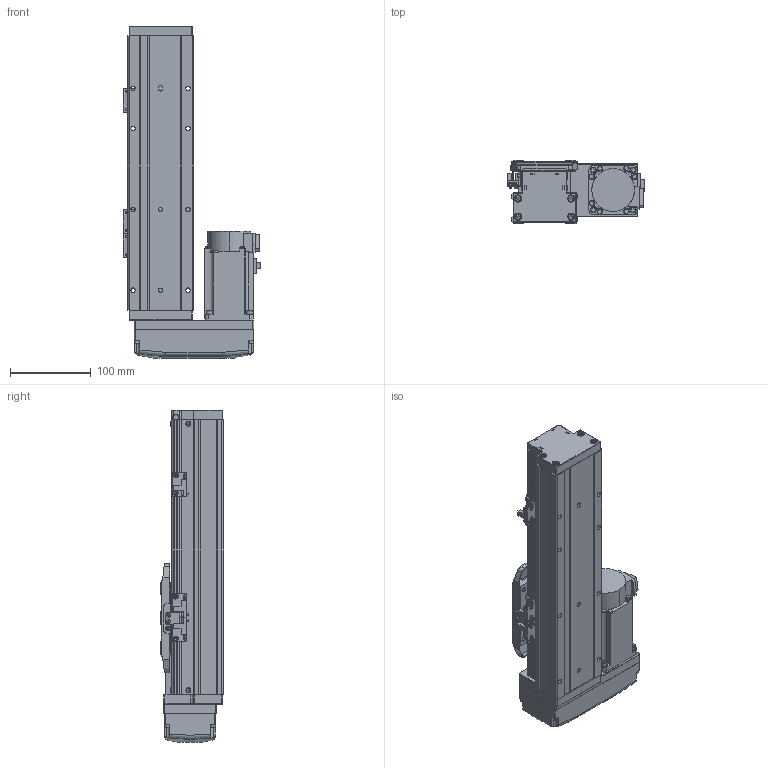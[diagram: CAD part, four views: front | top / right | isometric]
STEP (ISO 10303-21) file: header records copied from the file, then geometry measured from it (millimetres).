
FILE_DESCRIPTION (( 'STEP AP203' ), '1' );
FILE_NAME ('GTH8-150-BR-M20-C4.step', '2022-09-23T01:09:15', ( '微软用户' ), ( '微软中国' ), 'SwSTEP 2.0', 'SolidWorks 2020', '' );
FILE_SCHEMA (( 'CONFIG_CONTROL_DESIGN' ));
Length unit declared in the file: millimetre
Products named in the file (18): GTH80-022; BTH-M3X5X6; GTH80-001_150; GBT 70.1-M3℅6; hg-kn43j_-s100_; GTH80-003; GBT 70.1-M4×16; CTHA86-015-1_CTHA86-015-2; GTH80-004; GTH80-028; CTHA86-033_M40B; GTH80-006; GTH50-024; GTH8-150-BR-M20-C4; GTH80-013; GTH50-023; GBT 70.3-M3℅6; GBT96.1-2002 3×0.8
Assembly tree (57 placements, depth 2):
  GTH8-150-BR-M20-C4
    GTH80-001_150
    GTH80-003
    GTH80-004
    GTH80-006
    GTH80-013
    GBT 70.3-M3℅6  x4
    GTH80-022
    GBT 70.1-M3℅6  x14
    GBT 70.1-M4×16  x8
    GTH80-028  x2
    GTH50-024  x3
    GTH50-023  x3
    GBT96.1-2002 3×0.8  x6
    BTH-M3X5X6  x8
    hg-kn43j_-s100_
    CTHA86-015-1_CTHA86-015-2
    CTHA86-033_M40B
Bounding box: 169.7 x 78 x 411 mm (x, y, z)
Volume: 2463957.2 mm3; surface area: 312854.7 mm2
Topology: 59 solids, 59 shells, 2224 faces, 5127 edges, 3139 vertices
Faces by surface type: plane 1187, cylinder 595, cone 260, torus 166, bspline 8, sphere 8
Entity records: 40330 total; most frequent: CARTESIAN_POINT 7097, DIRECTION 6537, ORIENTED_EDGE 6072, EDGE_CURVE 3036, AXIS2_PLACEMENT_3D 2277, VECTOR 1983, LINE 1983, VERTEX_POINT 1914
